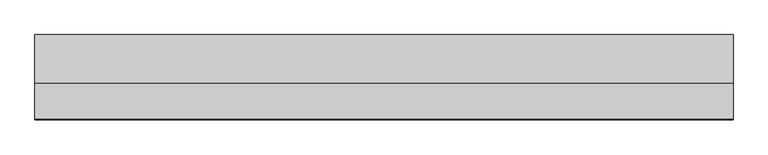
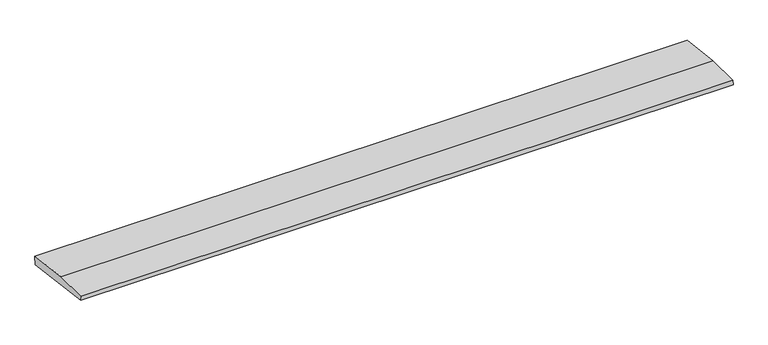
"""IFC4 building model written with IfcOpenShell, lengths in millimetres: beam geometry, weatherboad : weatherboad."""

from ifc_helpers import new_model, si_unit, frame, origin, place, context, project, spatial, polyline, outline, extrude, source, transform, mapped, element, save


def beam_88fd5e57(model_context):
    return source(origin(), model_context, "Body", "SweptSolid", [
        extrude(outline(polyline([(0.0, -9.143159), (1.1226388, 0.0), (79.0749747, 0.0), (180.9387048, -12.5072934), (178.6231873, -31.3656703), (0.0, -9.143159)])), frame((-739.0741737, 0.0, 0.0), z_axis=(1.0, 0.0, 0.0), x_axis=(0.0, 1.0, 0.0)), (0.0, 0.0, 1.0), 1478.1483474),
    ])


if __name__ == "__main__":
    model = new_model("IFC4")
    model_context = context("Model", 3, world=origin())
    ifc_project = project(units=[si_unit("LENGTHUNIT", "METRE", prefix="MILLI")], contexts=[model_context])
    site = spatial("IfcSite", under=ifc_project)
    building = spatial("IfcBuilding", under=site)
    placement = place(None, origin())
    beam_shape = beam_88fd5e57(model_context)
    element("IfcBeam", 1, ObjectType="weatherboad : weatherboad", at=placement, inside=building, context=model_context, shape_type="MappedRepresentation", body=[
        mapped(beam_shape, transform((0.0, 0.0, 0.0), x_axis=(1.0, 0.0, 0.0), y_axis=(0.0, 1.0, 0.0), z_axis=(0.0, 0.0, 1.0))),
    ])
    save(model, "model.ifc")
